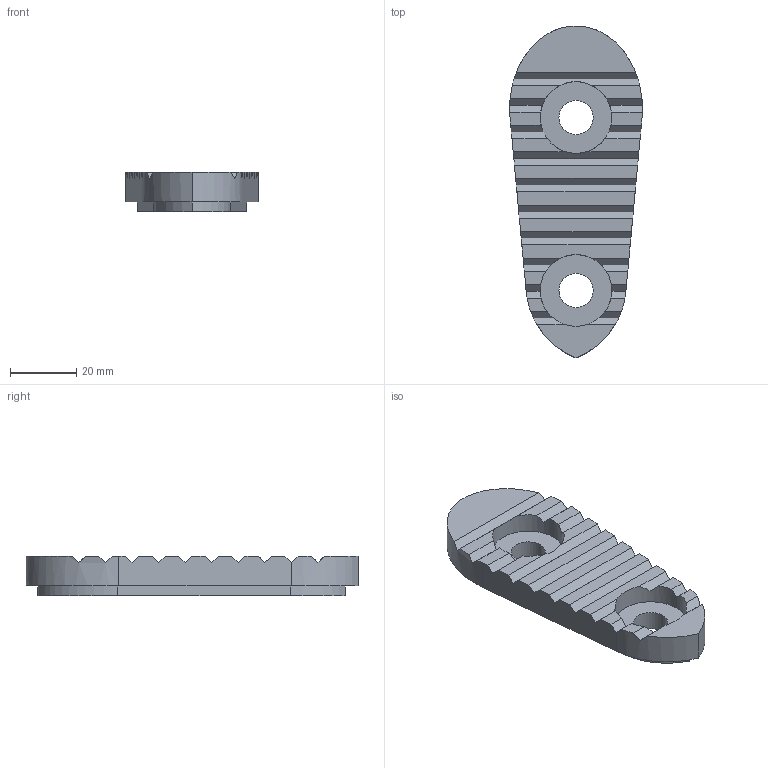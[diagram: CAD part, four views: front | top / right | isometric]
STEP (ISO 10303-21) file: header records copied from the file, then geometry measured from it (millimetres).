
FILE_DESCRIPTION (( 'STEP AP203' ), '1' );
FILE_NAME ('E43X 93R stock buttpad.STEP', '2020-12-17T02:41:31', ( '' ), ( '' ), 'SwSTEP 2.0', 'SolidWorks 2016', '' );
FILE_SCHEMA (( 'CONFIG_CONTROL_DESIGN' ));
Length unit declared in the file: millimetre
Products named in the file (1): E43X 93R stock buttpad
Bounding box: 39.99 x 100 x 12 mm (x, y, z)
Volume: 28932.9 mm3; surface area: 10161.6 mm2
Topology: 1 solids, 1 shells, 68 faces, 195 edges, 130 vertices
Faces by surface type: plane 54, cylinder 12, bspline 2
Entity records: 2362 total; most frequent: CARTESIAN_POINT 591, ORIENTED_EDGE 390, DIRECTION 319, EDGE_CURVE 195, VERTEX_POINT 130, LINE 113, VECTOR 113, AXIS2_PLACEMENT_3D 103
